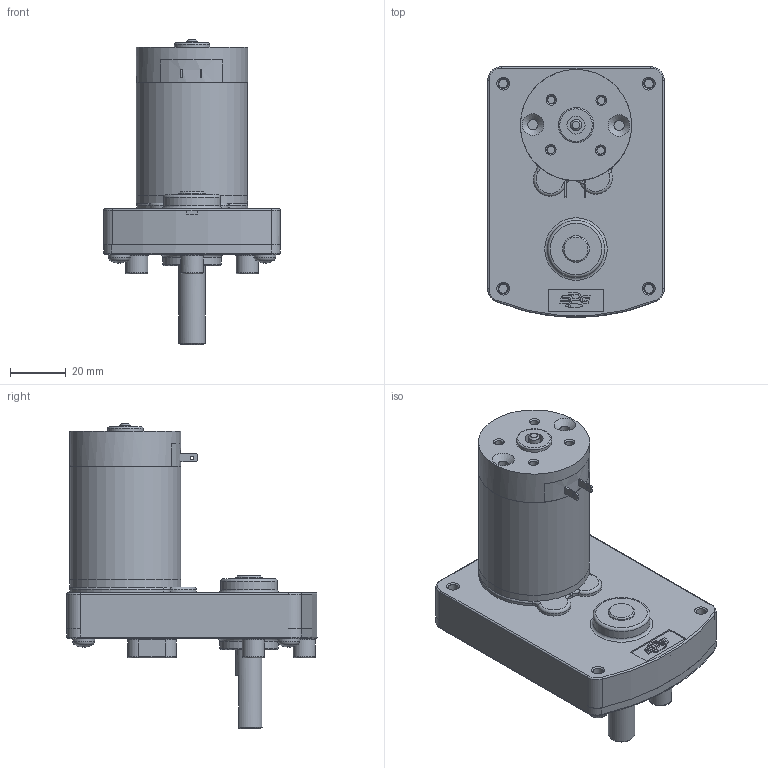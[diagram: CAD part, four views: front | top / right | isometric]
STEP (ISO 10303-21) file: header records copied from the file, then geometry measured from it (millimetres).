
FILE_DESCRIPTION(/* description */ (''),/* implementation_level */ '2;1');
FILE_NAME(/* name */ 'C:\Users\byjeong\Desktop\3D도면\SR43BT.stp',/* time_stamp */ '2015-03-31T14:57:44+09:00',/* author */ ('byjeong'),/* organization */ (''),/* preprocessor_version */ 'ST-DEVELOPER v15.6',/* originating_system */ 'Autodesk Inventor 2015',/* authorisation */ '');
FILE_SCHEMA (('AUTOMOTIVE_DESIGN { 1 0 10303 214 3 1 1 }'));
Length unit declared in the file: millimetre
Products named in the file (9): SR BOX ASSY; RM4TYPE_FRONT_HOUSING_; RM4TYPE_BRUSH_BRAKET_TERMINAL; RM4TYPE_REAR_HOUSING; REAR_HOUSING__ASS'Y_TERMINAL; RM4TYPE_PIPE_HOUSING_pi40XL40.8; RM43TYPE_SHAFT; RM43ㅁBT; 조립품2
Bounding box: 63.5 x 90.14 x 109.77 mm (x, y, z)
Volume: 68247.5 mm3; surface area: 56101.2 mm2
Topology: 7 solids, 16 shells, 555 faces, 1346 edges, 859 vertices
Faces by surface type: plane 241, cylinder 153, cone 96, torus 60, sphere 4, bspline 1
Full cylindrical faces by diameter (mm): 1.2 x2, 2.5 x1, 2.7 x4, 2.8 x4, 3 x3, 3.4 x7, 3.571 x4, 3.6 x6, 3.7 x2, 3.969 x1, 4 x8, 4.4 x6, 4.45 x1, 5 x1, 6.5 x1, 6.65 x1, 8 x3, 9.525 x2, 9.528 x1, 9.565 x2, 12.7 x3, 14.3 x3, 16.6 x1, 17.6 x1, 20.5 x1, 21 x1, 23 x1, 36.5 x1, 40 x3
Entity records: 16231 total; most frequent: CARTESIAN_POINT 3673, DIRECTION 2689, ORIENTED_EDGE 2312, EDGE_CURVE 1152, AXIS2_PLACEMENT_3D 1106, VERTEX_POINT 820, EDGE_LOOP 794, FACE_OUTER_BOUND 555
